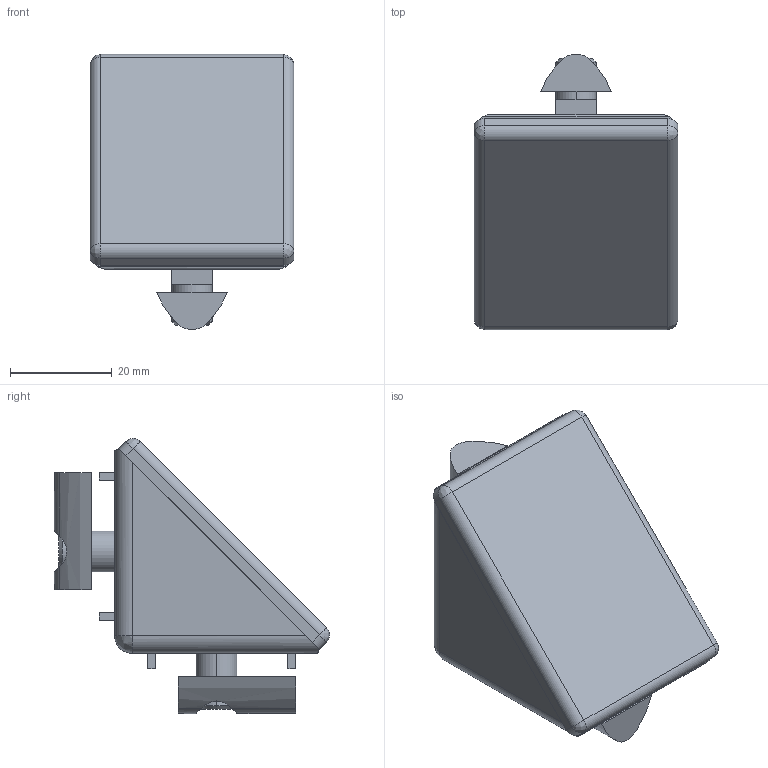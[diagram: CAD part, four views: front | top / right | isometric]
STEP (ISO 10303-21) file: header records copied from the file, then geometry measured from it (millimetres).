
FILE_DESCRIPTION (( 'STEP AP203' ), '1' );
FILE_NAME ('0108W4040ZNSZ.STEP', '2024-03-13T08:21:02', ( 'Windows-Benutzer' ), ( '' ), 'SwSTEP 2.0', 'SolidWorks 2023', '' );
FILE_SCHEMA (( 'CONFIG_CONTROL_DESIGN' ));
Length unit declared in the file: millimetre
Products named in the file (1): 0108W4040ZNSZ
Bounding box: 40 x 53.98 x 53.97 mm (x, y, z)
Volume: 32771.5 mm3; surface area: 19446.7 mm2
Topology: 8 solids, 8 shells, 165 faces, 390 edges, 246 vertices
Faces by surface type: plane 88, cylinder 59, bspline 14, cone 4
Entity records: 5265 total; most frequent: CARTESIAN_POINT 1456, ORIENTED_EDGE 768, DIRECTION 764, EDGE_CURVE 384, AXIS2_PLACEMENT_3D 266, VERTEX_POINT 246, LINE 232, VECTOR 232
